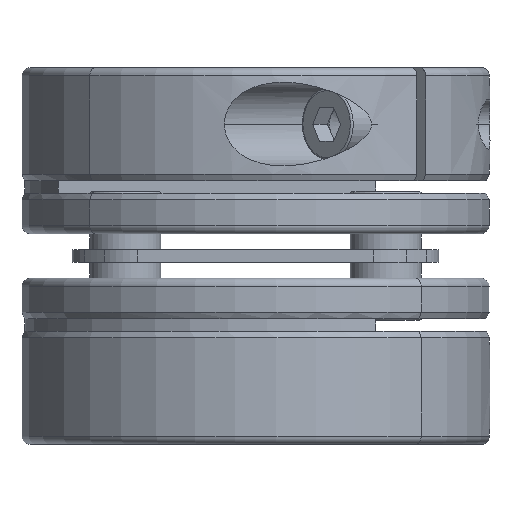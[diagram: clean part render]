
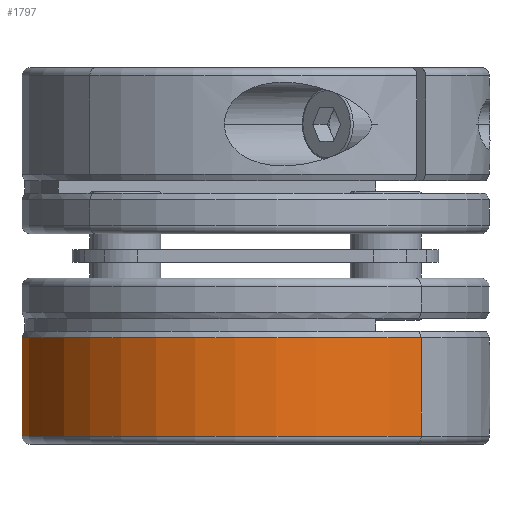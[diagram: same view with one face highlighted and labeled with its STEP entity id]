
A CAD part, front view. The second image highlights one B-rep face of the part: STEP entity #1797.
In plain terms, the highlighted cylindrical face has radius 28 mm (diameter 56 mm), a partial arc.
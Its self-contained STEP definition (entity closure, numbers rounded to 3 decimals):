
#192 = CARTESIAN_POINT ( 'NONE',  ( -28., -2.79, 0. ) ) ;
#212 = VECTOR ( 'NONE', #4874, 1000. ) ;
#213 = CIRCLE ( 'NONE', #4069, 28. ) ;
#258 = CIRCLE ( 'NONE', #1738, 28. ) ;
#262 = CARTESIAN_POINT ( 'NONE',  ( 28., -2.79, 0. ) ) ;
#419 = DIRECTION ( 'NONE',  ( 0., -1., 0. ) ) ;
#578 = LINE ( 'NONE', #5222, #2890 ) ;
#579 = CARTESIAN_POINT ( 'NONE',  ( 0., -9.925, 0. ) ) ;
#844 = ORIENTED_EDGE ( 'NONE', *, *, #4259, .T. ) ;
#940 = ORIENTED_EDGE ( 'NONE', *, *, #4423, .F. ) ;
#1077 = VERTEX_POINT ( 'NONE', #1720 ) ;
#1100 = CARTESIAN_POINT ( 'NONE',  ( 28., -9.925, 0. ) ) ;
#1380 = CARTESIAN_POINT ( 'NONE',  ( -28., 8.925, 0. ) ) ;
#1512 = DIRECTION ( 'NONE',  ( 0., -1., 0. ) ) ;
#1586 = EDGE_LOOP ( 'NONE', ( #940, #844, #4319, #4991 ) ) ;
#1720 = CARTESIAN_POINT ( 'NONE',  ( 28., 8.925, 0. ) ) ;
#1738 = AXIS2_PLACEMENT_3D ( 'NONE', #4091, #419, #3599 ) ;
#1797 = ADVANCED_FACE ( 'NONE', ( #2413 ), #2965, .T. ) ;
#2088 = EDGE_CURVE ( 'NONE', #2420, #4510, #258, .T. ) ;
#2113 = VERTEX_POINT ( 'NONE', #1380 ) ;
#2377 = EDGE_CURVE ( 'NONE', #1077, #4510, #5873, .T. ) ;
#2413 = FACE_OUTER_BOUND ( 'NONE', #1586, .T. ) ;
#2420 = VERTEX_POINT ( 'NONE', #192 ) ;
#2774 = DIRECTION ( 'NONE',  ( 1., 0., 0. ) ) ;
#2843 = DIRECTION ( 'NONE',  ( 0., -1., 0. ) ) ;
#2890 = VECTOR ( 'NONE', #1512, 1000. ) ;
#2965 = CYLINDRICAL_SURFACE ( 'NONE', #5966, 28. ) ;
#3599 = DIRECTION ( 'NONE',  ( 1., 0., 0. ) ) ;
#3671 = CARTESIAN_POINT ( 'NONE',  ( 0., 8.925, 0. ) ) ;
#4069 = AXIS2_PLACEMENT_3D ( 'NONE', #3671, #4662, #2774 ) ;
#4091 = CARTESIAN_POINT ( 'NONE',  ( 0., -2.79, 0. ) ) ;
#4259 = EDGE_CURVE ( 'NONE', #2113, #1077, #213, .T. ) ;
#4319 = ORIENTED_EDGE ( 'NONE', *, *, #2377, .T. ) ;
#4423 = EDGE_CURVE ( 'NONE', #2113, #2420, #578, .T. ) ;
#4510 = VERTEX_POINT ( 'NONE', #262 ) ;
#4662 = DIRECTION ( 'NONE',  ( 0., -1., 0. ) ) ;
#4849 = DIRECTION ( 'NONE',  ( 1., 0., 0. ) ) ;
#4874 = DIRECTION ( 'NONE',  ( 0., -1., 0. ) ) ;
#4991 = ORIENTED_EDGE ( 'NONE', *, *, #2088, .F. ) ;
#5222 = CARTESIAN_POINT ( 'NONE',  ( -28., -9.925, 0. ) ) ;
#5873 = LINE ( 'NONE', #1100, #212 ) ;
#5966 = AXIS2_PLACEMENT_3D ( 'NONE', #579, #2843, #4849 ) ;
